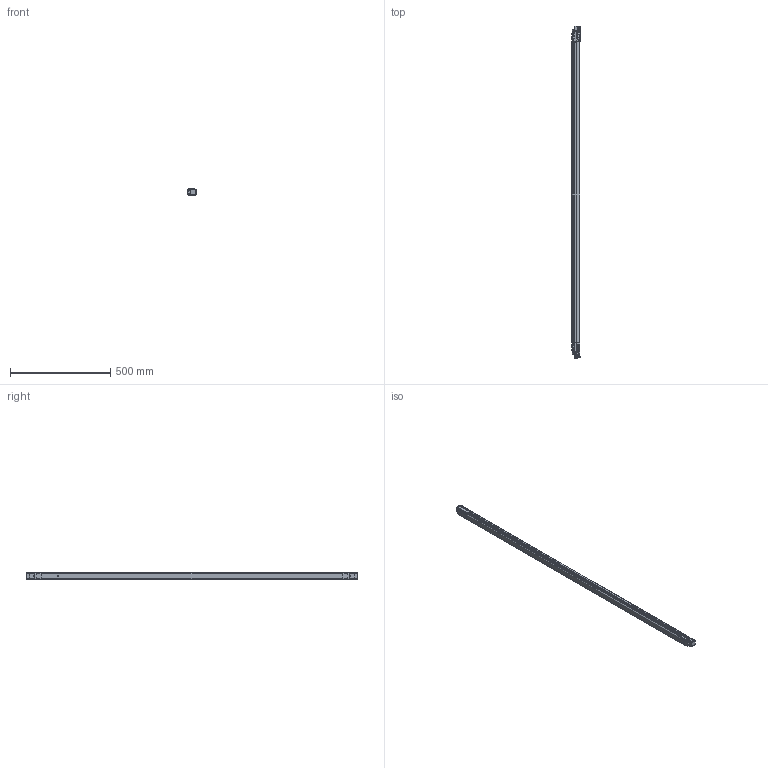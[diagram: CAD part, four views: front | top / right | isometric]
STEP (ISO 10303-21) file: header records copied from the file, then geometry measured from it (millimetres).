
FILE_DESCRIPTION((''),'2;1');
FILE_NAME('2012801_ASM','2013-06-14T',('rink'),(''),'PRO/ENGINEER BY PARAMETRIC TECHNOLOGY CORPORATION, 2011040','PRO/ENGINEER BY PARAMETRIC TECHNOLOGY CORPORATION, 2011040','');
FILE_SCHEMA(('AUTOMOTIVE_DESIGN_CC2 { 1 2 10303 214 -1 1 5 2 }'));
Products named in the file (4): 2012800; 2012768; 2008185; 2012801_ASM
Assembly tree (4 placements, depth 2):
  2012801_ASM
    2012800
    2012768  x2
    2008185
Bounding box: 40.95 x 1656.2 x 35 mm (x, y, z)
Surface area: 304259 mm2
Topology: 15 solids, 168 shells, 2425 faces, 8808 edges, 6305 vertices
Faces by surface type: plane 1522, cylinder 503, bspline 174, cone 143, torus 63, sphere 20
Entity records: 104208 total; most frequent: CARTESIAN_POINT 30045, ORIENTED_EDGE 10305, DIRECTION 9495, PRESENTATION_STYLE_ASSIGNMENT 6915, STYLED_ITEM 6910, CURVE_STYLE 6784, EDGE_CURVE 6768, VERTEX_POINT 4928
